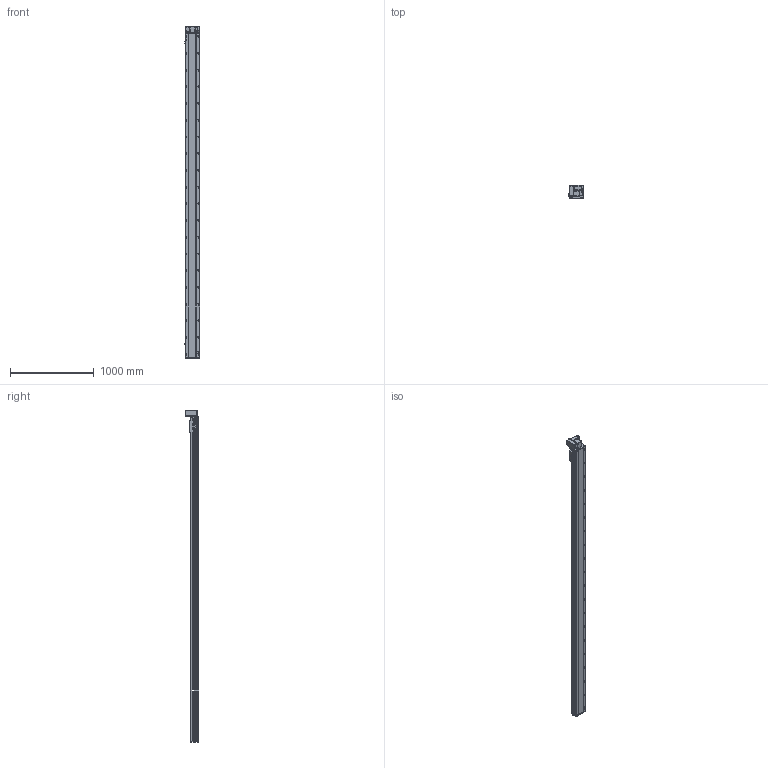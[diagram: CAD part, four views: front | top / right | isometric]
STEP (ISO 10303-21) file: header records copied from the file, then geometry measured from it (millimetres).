
FILE_DESCRIPTION (( 'STEP AP214' ), '1' );
FILE_NAME ('RTB17S-XX-3600-LW-M40-C4.STEP', '2025-12-11T07:25:01', ( '' ), ( '' ), 'SwSTEP 2.0', 'SolidWorks 2018', '' );
FILE_SCHEMA (( 'AUTOMOTIVE_DESIGN' ));
Length unit declared in the file: millimetre
Products named in the file (14): RTB14-L-017P^RTB17S-LW-々湍釱蚾饜-400W_RTB17S-XX-XX-LW-M40-C4; RTB14-L-005P--轴承塑胶压盖^RTB17S-LW-皮带座装配-400W_RTB17S-XX-XX-LW-M40-C4; RTB17S-L-007奻裔^RTB17S-XX-XX-LW-M40-C4; RTB14-L-008-M20--萇儂啣^RTB17S-LW-々湍釱蚾饜-400W_RTB17S-XX-XX-LW-M40-C4; RTB17S-L-001耜醱啣^RTB17S-XX-XX-LW-M40-C4; RTB17S-XX-3600-LW-M40-C4; 400W侜督萇儂^RTB17S-XX-XX-LW-M40-C4; RTB17S-L-004佪裝蹟譫蟀諉釱^RTB17S-XX-XX-LW-M40-C4; OMRON EE-SX672 传感器^RTB17S-XX-XX-LW-M40-C4; RTB17S-LW-々湍釱蚾饜-400W^RTB17S-XX-XX-LW-M40-C4; RTB14-L-018P^RTB17S-LW-々湍釱蚾饜-400W_RTB17S-XX-XX-LW-M40-C4; RTB17-R-011菁釱^RTB17S-XX-XX-LW-M40-C4; RTH13-BL-012覜茼え俋离^RTB17S-XX-XX-LW-M40-C4; RTB17S-L-014-T20--々湍釱^RTB17S-LW-々湍釱蚾饜-400W_RTB17S-XX-XX-LW-M40-C4
Assembly tree (16 placements, depth 3):
  RTB17S-XX-3600-LW-M40-C4
    RTB17-R-011菁釱^RTB17S-XX-XX-LW-M40-C4
    RTB17S-L-007奻裔^RTB17S-XX-XX-LW-M40-C4
    OMRON EE-SX672 传感器^RTB17S-XX-XX-LW-M40-C4  x3
    RTB17S-L-001耜醱啣^RTB17S-XX-XX-LW-M40-C4
    400W侜督萇儂^RTB17S-XX-XX-LW-M40-C4
    RTB17S-L-004佪裝蹟譫蟀諉釱^RTB17S-XX-XX-LW-M40-C4
    RTH13-BL-012覜茼え俋离^RTB17S-XX-XX-LW-M40-C4
    RTB17S-LW-々湍釱蚾饜-400W^RTB17S-XX-XX-LW-M40-C4
      RTB17S-L-014-T20--々湍釱^RTB17S-LW-々湍釱蚾饜-400W_RTB17S-XX-XX-LW-M40-C4
      RTB14-L-005P--轴承塑胶压盖^RTB17S-LW-皮带座装配-400W_RTB17S-XX-XX-LW-M40-C4
      RTB14-L-008-M20--萇儂啣^RTB17S-LW-々湍釱蚾饜-400W_RTB17S-XX-XX-LW-M40-C4
      RTB14-L-017P^RTB17S-LW-々湍釱蚾饜-400W_RTB17S-XX-XX-LW-M40-C4  x2
      RTB14-L-018P^RTB17S-LW-々湍釱蚾饜-400W_RTB17S-XX-XX-LW-M40-C4
Bounding box: 186 x 160.5 x 3972.5 mm (x, y, z)
Volume: 33579738.6 mm3; surface area: 3809323.1 mm2
Topology: 15 solids, 15 shells, 2413 faces, 6789 edges, 4437 vertices
Faces by surface type: plane 1094, cylinder 871, bspline 301, cone 139, torus 8
Entity records: 72617 total; most frequent: CARTESIAN_POINT 20794, ORIENTED_EDGE 10422, DIRECTION 9566, EDGE_CURVE 5211, VERTEX_POINT 3425, AXIS2_PLACEMENT_3D 3355, VECTOR 2856, LINE 2856
